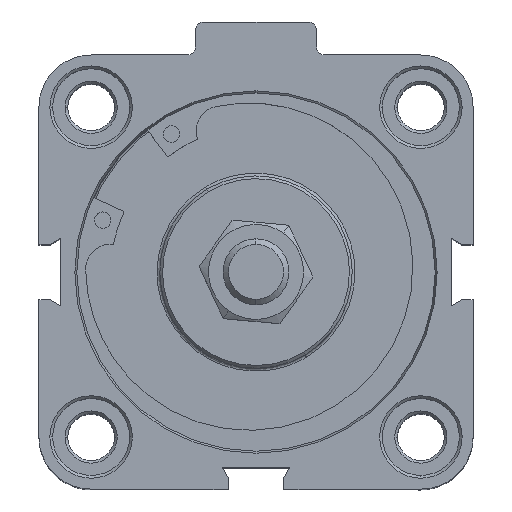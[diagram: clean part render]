
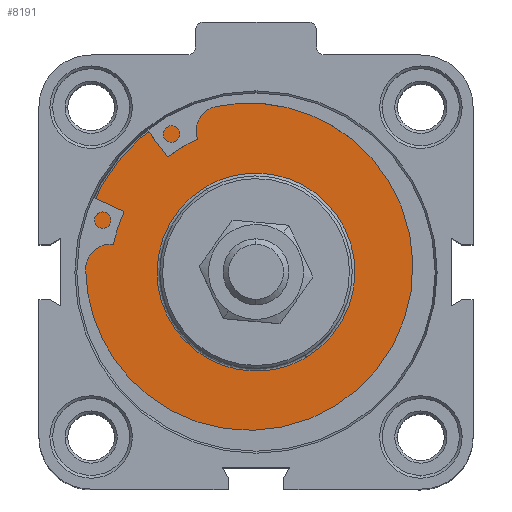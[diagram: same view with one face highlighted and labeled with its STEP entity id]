
A CAD part, top view. The second image highlights one B-rep face of the part: STEP entity #8191.
In plain terms, the highlighted planar face has unit normal (0, 0, 1).
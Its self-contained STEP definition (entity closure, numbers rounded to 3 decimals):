
#10 = FACE_BOUND ( 'NONE', #11233, .T. ) ;
#1132 = DIRECTION ( 'NONE',  ( 0., 0., -1. ) ) ;
#1349 = CARTESIAN_POINT ( 'NONE',  ( 0., 0., -5.425 ) ) ;
#1371 = EDGE_CURVE ( 'NONE', #11304, #18928, #16410, .T. ) ;
#2501 = CIRCLE ( 'NONE', #11998, 32.2 ) ;
#2780 = CARTESIAN_POINT ( 'NONE',  ( -40.144, -2.909, -5.425 ) ) ;
#2872 = CARTESIAN_POINT ( 'NONE',  ( 21.759, 33.86, -5.425 ) ) ;
#3686 = CARTESIAN_POINT ( 'NONE',  ( 9.192, -15.476, -5.425 ) ) ;
#3778 = CARTESIAN_POINT ( 'NONE',  ( 0., 0., -5.425 ) ) ;
#4873 = CARTESIAN_POINT ( 'NONE',  ( -9.192, 15.476, -5.425 ) ) ;
#5344 = DIRECTION ( 'NONE',  ( 0., 0., -1. ) ) ;
#7878 = CARTESIAN_POINT ( 'NONE',  ( 9.192, -15.476, -5.425 ) ) ;
#8028 = PLANE ( 'NONE',  #9532 ) ;
#8191 = ADVANCED_FACE ( 'NONE', ( #10, #14978 ), #8028, .F. ) ;
#9532 = AXIS2_PLACEMENT_3D ( 'NONE', #1349, #1132, #21280 ) ;
#9862 = ORIENTED_EDGE ( 'NONE', *, *, #19838, .F. ) ;
#11085 = EDGE_CURVE ( 'NONE', #18928, #11304, #14610, .T. ) ;
#11233 = EDGE_LOOP ( 'NONE', ( #11454, #13418 ) ) ;
#11248 = CARTESIAN_POINT ( 'NONE',  ( -9.192, 15.476, -5.425 ) ) ;
#11304 = VERTEX_POINT ( 'NONE', #3686 ) ;
#11393 = AXIS2_PLACEMENT_3D ( 'NONE', #3778, #15668, #17385 ) ;
#11454 = ORIENTED_EDGE ( 'NONE', *, *, #11085, .F. ) ;
#11905 = CARTESIAN_POINT ( 'NONE',  ( 0., 0., -5.425 ) ) ;
#11998 = AXIS2_PLACEMENT_3D ( 'NONE', #11905, #5344, #17124 ) ;
#12875 = CARTESIAN_POINT ( 'NONE',  ( -9.192, 15.476, -5.425 ) ) ;
#13218 = CARTESIAN_POINT ( 'NONE',  ( -16.444, 27.685, -5.425 ) ) ;
#13418 = ORIENTED_EDGE ( 'NONE', *, *, #1371, .F. ) ;
#14315 = ORIENTED_EDGE ( 'NONE', *, *, #20816, .F. ) ;
#14610 =( BOUNDED_CURVE ( )  B_SPLINE_CURVE ( 3, ( #12875, #2780, #21029, #17940 ),
 .UNSPECIFIED., .F., .F. ) 
 B_SPLINE_CURVE_WITH_KNOTS ( ( 4, 4 ),
 ( 0., 1. ),
 .UNSPECIFIED. ) 
 CURVE ( )  GEOMETRIC_REPRESENTATION_ITEM ( )  RATIONAL_B_SPLINE_CURVE ( ( 1., 0.333, 0.333, 1. ) ) 
 REPRESENTATION_ITEM ( '' )  );
#14978 = FACE_OUTER_BOUND ( 'NONE', #20357, .T. ) ;
#15332 = CARTESIAN_POINT ( 'NONE',  ( 16.444, -27.685, -5.425 ) ) ;
#15668 = DIRECTION ( 'NONE',  ( 0., 0., -1. ) ) ;
#16385 = CARTESIAN_POINT ( 'NONE',  ( 40.144, 2.909, -5.425 ) ) ;
#16410 =( BOUNDED_CURVE ( )  B_SPLINE_CURVE ( 3, ( #7878, #16385, #2872, #11248 ),
 .UNSPECIFIED., .F., .T. ) 
 B_SPLINE_CURVE_WITH_KNOTS ( ( 4, 4 ),
 ( 0., 1. ),
 .UNSPECIFIED. ) 
 CURVE ( )  GEOMETRIC_REPRESENTATION_ITEM ( )  RATIONAL_B_SPLINE_CURVE ( ( 1., 0.333, 0.333, 1. ) ) 
 REPRESENTATION_ITEM ( '' )  );
#17124 = DIRECTION ( 'NONE',  ( -0.511, 0.86, 0. ) ) ;
#17292 = VERTEX_POINT ( 'NONE', #15332 ) ;
#17385 = DIRECTION ( 'NONE',  ( -0.511, 0.86, 0. ) ) ;
#17940 = CARTESIAN_POINT ( 'NONE',  ( 9.192, -15.476, -5.425 ) ) ;
#18083 = VERTEX_POINT ( 'NONE', #13218 ) ;
#18928 = VERTEX_POINT ( 'NONE', #4873 ) ;
#19640 = CIRCLE ( 'NONE', #11393, 32.2 ) ;
#19838 = EDGE_CURVE ( 'NONE', #18083, #17292, #19640, .T. ) ;
#20357 = EDGE_LOOP ( 'NONE', ( #9862, #14315 ) ) ;
#20816 = EDGE_CURVE ( 'NONE', #17292, #18083, #2501, .T. ) ;
#21029 = CARTESIAN_POINT ( 'NONE',  ( -21.759, -33.86, -5.425 ) ) ;
#21280 = DIRECTION ( 'NONE',  ( -0.511, 0.86, 0. ) ) ;
